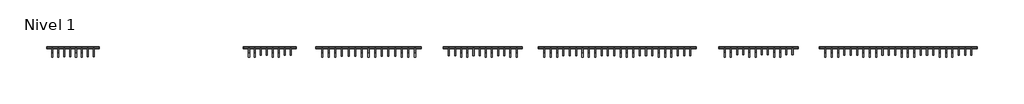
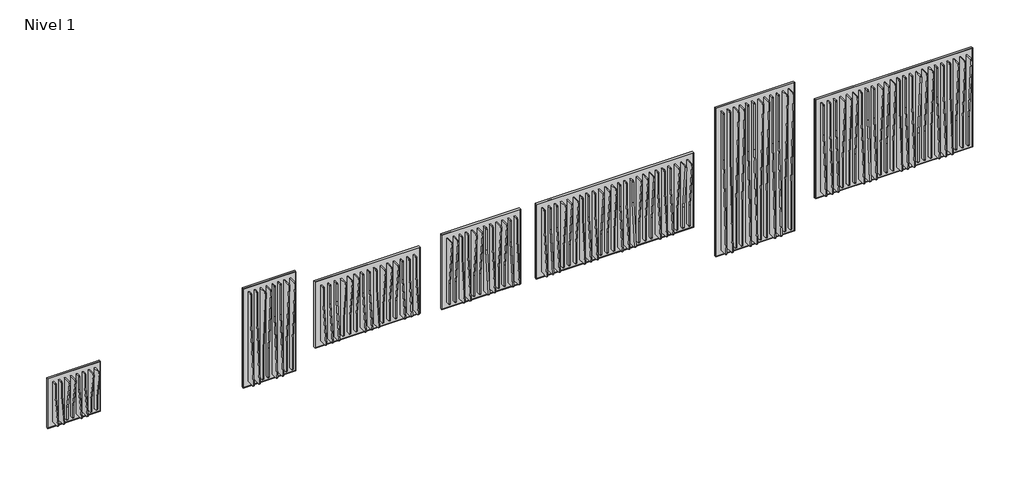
# One storey, incomplete: 7 proxies.
"""IFC4 building model written with IfcOpenShell, lengths in millimetres."""

from ifc_helpers import new_model, si_unit, origin, place, context, project, spatial, transform, mapped, element, save
from components import generic_models_47d1e525, generic_models_3c122afe, generic_models_b62d93f3, generic_models_126d4670, generic_models_a66e9d63, generic_models_848bd60c, generic_models_d426de22

model = new_model("IFC4")

# Units and contexts
model_context = context("Model", 3, world=origin())
ifc_project = project(units=[si_unit("LENGTHUNIT", "METRE", prefix="MILLI")], contexts=[model_context])

# Site, building, storey
site = spatial("IfcSite", under=ifc_project)
building = spatial("IfcBuilding", under=site)
storey = spatial("IfcBuildingStorey", under=building, Name="Nivel 1", Elevation=0.0)

# Proxies
placement = place(None, origin())
generic_models_shape = generic_models_47d1e525(model_context)
element("IfcBuildingElementProxy", 1, Name="Frames_Plungle 1.3dm", ObjectType="Frames_Plungle 1.3dm", at=placement, inside=storey, context=model_context, shape_type="MappedRepresentation", body=[
    mapped(generic_models_shape, transform((0.0, 0.0, 0.0), x_axis=(1.0, 0.0, 0.0), y_axis=(0.0, 1.0, 0.0), z_axis=(0.0, 0.0, 1.0))),
])
generic_models_2_shape = generic_models_3c122afe(model_context)
element("IfcBuildingElementProxy", 2, Name="Frames_Plungle 2.3dm", ObjectType="Frames_Plungle 2.3dm", at=placement, inside=storey, context=model_context, shape_type="MappedRepresentation", body=[
    mapped(generic_models_2_shape, transform((0.0, 0.0, 0.0), x_axis=(1.0, 0.0, 0.0), y_axis=(0.0, 1.0, 0.0), z_axis=(0.0, 0.0, 1.0))),
])
generic_models_3_shape = generic_models_b62d93f3(model_context)
element("IfcBuildingElementProxy", 3, Name="Frames_Plungle 3.3dm", ObjectType="Frames_Plungle 3.3dm", at=placement, inside=storey, context=model_context, shape_type="MappedRepresentation", body=[
    mapped(generic_models_3_shape, transform((0.0, 0.0, 0.0), x_axis=(1.0, 0.0, 0.0), y_axis=(0.0, 1.0, 0.0), z_axis=(0.0, 0.0, 1.0))),
])
generic_models_4_shape = generic_models_126d4670(model_context)
element("IfcBuildingElementProxy", 4, Name="Frames_Plungle 4.3dm", ObjectType="Frames_Plungle 4.3dm", at=placement, inside=storey, context=model_context, shape_type="MappedRepresentation", body=[
    mapped(generic_models_4_shape, transform((0.0, 0.0, 0.0), x_axis=(1.0, 0.0, 0.0), y_axis=(0.0, 1.0, 0.0), z_axis=(0.0, 0.0, 1.0))),
])
generic_models_5_shape = generic_models_a66e9d63(model_context)
element("IfcBuildingElementProxy", 5, Name="Frames_Plungle 5.3dm", ObjectType="Frames_Plungle 5.3dm", at=placement, inside=storey, context=model_context, shape_type="MappedRepresentation", body=[
    mapped(generic_models_5_shape, transform((0.0, 0.0, 0.0), x_axis=(1.0, 0.0, 0.0), y_axis=(0.0, 1.0, 0.0), z_axis=(0.0, 0.0, 1.0))),
])
generic_models_6_shape = generic_models_848bd60c(model_context)
element("IfcBuildingElementProxy", 6, Name="Frames_Plungle 6.3dm", ObjectType="Frames_Plungle 6.3dm", at=placement, inside=storey, context=model_context, shape_type="MappedRepresentation", body=[
    mapped(generic_models_6_shape, transform((0.0, 0.0, 0.0), x_axis=(1.0, 0.0, 0.0), y_axis=(0.0, 1.0, 0.0), z_axis=(0.0, 0.0, 1.0))),
])
generic_models_7_shape = generic_models_d426de22(model_context)
element("IfcBuildingElementProxy", 7, Name="Frames_Plungle 8.3dm", ObjectType="Frames_Plungle 8.3dm", at=placement, inside=storey, context=model_context, shape_type="MappedRepresentation", body=[
    mapped(generic_models_7_shape, transform((0.0, 0.0, 0.0), x_axis=(1.0, 0.0, 0.0), y_axis=(0.0, 1.0, 0.0), z_axis=(0.0, 0.0, 1.0))),
])

save(model, "model.ifc")
